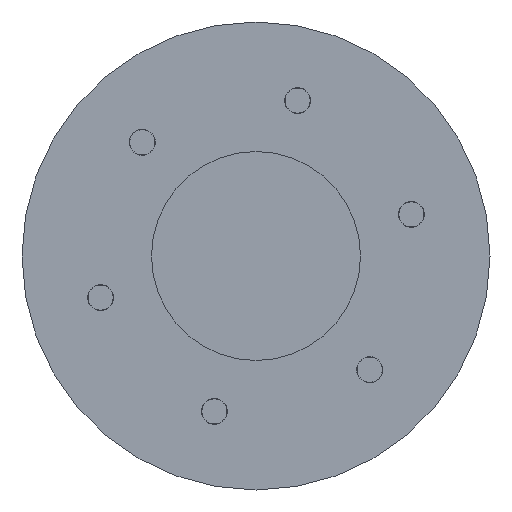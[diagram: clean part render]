
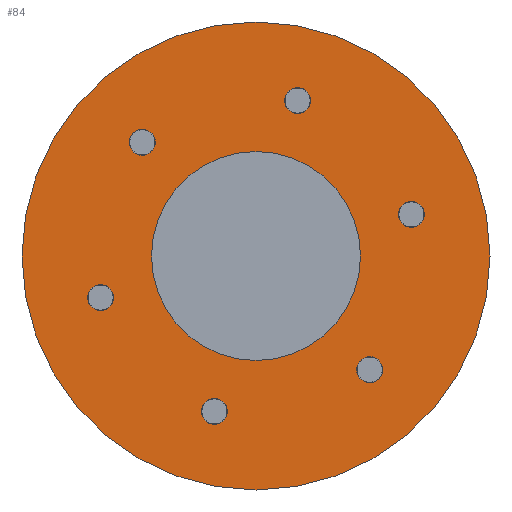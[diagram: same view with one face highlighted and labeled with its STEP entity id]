
A CAD part, front view. The second image highlights one B-rep face of the part: STEP entity #84.
In plain terms, the highlighted planar face has unit normal (0, -1, 0).
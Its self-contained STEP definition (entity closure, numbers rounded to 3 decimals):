
#84 = ADVANCED_FACE( '', ( #232, #233, #234, #235, #236, #237, #238, #239 ), #240, .F. );
#232 = FACE_BOUND( '', #551, .T. );
#233 = FACE_BOUND( '', #552, .T. );
#234 = FACE_BOUND( '', #553, .T. );
#235 = FACE_BOUND( '', #554, .T. );
#236 = FACE_BOUND( '', #555, .T. );
#237 = FACE_BOUND( '', #556, .T. );
#238 = FACE_BOUND( '', #557, .T. );
#239 = FACE_OUTER_BOUND( '', #558, .T. );
#240 = PLANE( '', #559 );
#551 = EDGE_LOOP( '', ( #888 ) );
#552 = EDGE_LOOP( '', ( #889 ) );
#553 = EDGE_LOOP( '', ( #890 ) );
#554 = EDGE_LOOP( '', ( #891 ) );
#555 = EDGE_LOOP( '', ( #892 ) );
#556 = EDGE_LOOP( '', ( #893 ) );
#557 = EDGE_LOOP( '', ( #894 ) );
#558 = EDGE_LOOP( '', ( #895 ) );
#559 = AXIS2_PLACEMENT_3D( '', #896, #897, #898 );
#888 = ORIENTED_EDGE( '', *, *, #1642, .F. );
#889 = ORIENTED_EDGE( '', *, *, #1643, .F. );
#890 = ORIENTED_EDGE( '', *, *, #1644, .F. );
#891 = ORIENTED_EDGE( '', *, *, #1645, .F. );
#892 = ORIENTED_EDGE( '', *, *, #1646, .F. );
#893 = ORIENTED_EDGE( '', *, *, #1647, .F. );
#894 = ORIENTED_EDGE( '', *, *, #1648, .F. );
#895 = ORIENTED_EDGE( '', *, *, #1649, .T. );
#896 = CARTESIAN_POINT( '', ( 56., -8., 0. ) );
#897 = DIRECTION( '', ( 0., 1., 0. ) );
#898 = DIRECTION( '', ( 0., 0., 1. ) );
#1642 = EDGE_CURVE( '', #1868, #1868, #1869, .T. );
#1643 = EDGE_CURVE( '', #1870, #1870, #1871, .T. );
#1644 = EDGE_CURVE( '', #1872, #1872, #1873, .T. );
#1645 = EDGE_CURVE( '', #1874, #1874, #1875, .T. );
#1646 = EDGE_CURVE( '', #1876, #1876, #1877, .T. );
#1647 = EDGE_CURVE( '', #1878, #1878, #1879, .T. );
#1648 = EDGE_CURVE( '', #1880, #1880, #1881, .T. );
#1649 = EDGE_CURVE( '', #1882, #1882, #1883, .T. );
#1868 = VERTEX_POINT( '', #2240 );
#1869 = CIRCLE( '', #2241, 25. );
#1870 = VERTEX_POINT( '', #2242 );
#1871 = CIRCLE( '', #2243, 3.1 );
#1872 = VERTEX_POINT( '', #2244 );
#1873 = CIRCLE( '', #2245, 3.1 );
#1874 = VERTEX_POINT( '', #2246 );
#1875 = CIRCLE( '', #2247, 3.1 );
#1876 = VERTEX_POINT( '', #2248 );
#1877 = CIRCLE( '', #2249, 3.1 );
#1878 = VERTEX_POINT( '', #2250 );
#1879 = CIRCLE( '', #2251, 3.1 );
#1880 = VERTEX_POINT( '', #2252 );
#1881 = CIRCLE( '', #2253, 3.1 );
#1882 = VERTEX_POINT( '', #2254 );
#1883 = CIRCLE( '', #2255, 56. );
#2240 = CARTESIAN_POINT( '', ( 0., -8., -25. ) );
#2241 = AXIS2_PLACEMENT_3D( '', #2772, #2773, #2774 );
#2242 = CARTESIAN_POINT( '', ( -37.188, -8., -13.065 ) );
#2243 = AXIS2_PLACEMENT_3D( '', #2775, #2776, #2777 );
#2244 = CARTESIAN_POINT( '', ( 9.965, -8., 34.088 ) );
#2245 = AXIS2_PLACEMENT_3D( '', #2778, #2779, #2780 );
#2246 = CARTESIAN_POINT( '', ( -27.224, -8., 24.124 ) );
#2247 = AXIS2_PLACEMENT_3D( '', #2781, #2782, #2783 );
#2248 = CARTESIAN_POINT( '', ( 37.188, -8., 6.865 ) );
#2249 = AXIS2_PLACEMENT_3D( '', #2784, #2785, #2786 );
#2250 = CARTESIAN_POINT( '', ( -9.965, -8., -40.288 ) );
#2251 = AXIS2_PLACEMENT_3D( '', #2787, #2788, #2789 );
#2252 = CARTESIAN_POINT( '', ( 27.224, -8., -30.324 ) );
#2253 = AXIS2_PLACEMENT_3D( '', #2790, #2791, #2792 );
#2254 = CARTESIAN_POINT( '', ( 0., -8., -56. ) );
#2255 = AXIS2_PLACEMENT_3D( '', #2793, #2794, #2795 );
#2772 = CARTESIAN_POINT( '', ( 0., -8., 0. ) );
#2773 = DIRECTION( '', ( 0., -1., 0. ) );
#2774 = DIRECTION( '', ( 0., 0., -1. ) );
#2775 = CARTESIAN_POINT( '', ( -37.188, -8., -9.965 ) );
#2776 = DIRECTION( '', ( 0., -1., 0. ) );
#2777 = DIRECTION( '', ( 0., 0., -1. ) );
#2778 = CARTESIAN_POINT( '', ( 9.965, -8., 37.188 ) );
#2779 = DIRECTION( '', ( 0., -1., 0. ) );
#2780 = DIRECTION( '', ( 0., 0., -1. ) );
#2781 = CARTESIAN_POINT( '', ( -27.224, -8., 27.224 ) );
#2782 = DIRECTION( '', ( 0., -1., 0. ) );
#2783 = DIRECTION( '', ( 0., 0., -1. ) );
#2784 = CARTESIAN_POINT( '', ( 37.188, -8., 9.965 ) );
#2785 = DIRECTION( '', ( 0., -1., 0. ) );
#2786 = DIRECTION( '', ( 0., 0., -1. ) );
#2787 = CARTESIAN_POINT( '', ( -9.965, -8., -37.188 ) );
#2788 = DIRECTION( '', ( 0., -1., 0. ) );
#2789 = DIRECTION( '', ( 0., 0., -1. ) );
#2790 = CARTESIAN_POINT( '', ( 27.224, -8., -27.224 ) );
#2791 = DIRECTION( '', ( 0., -1., 0. ) );
#2792 = DIRECTION( '', ( 0., 0., -1. ) );
#2793 = CARTESIAN_POINT( '', ( 0., -8., 0. ) );
#2794 = DIRECTION( '', ( 0., -1., 0. ) );
#2795 = DIRECTION( '', ( 0., 0., -1. ) );
